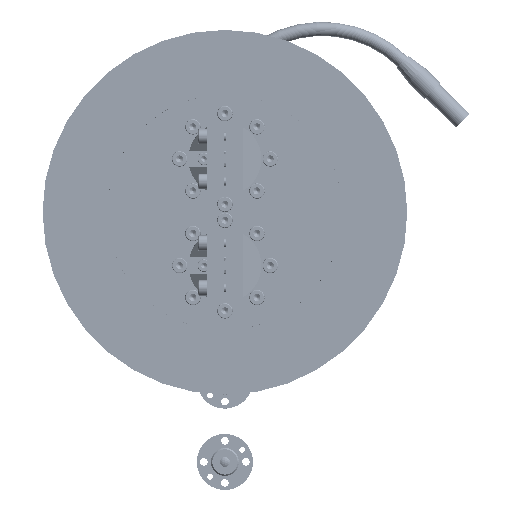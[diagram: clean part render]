
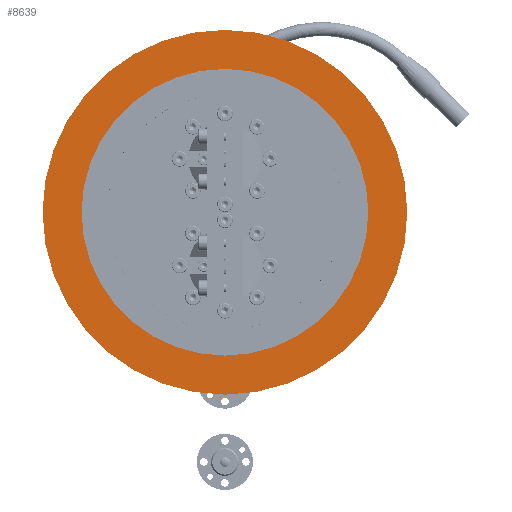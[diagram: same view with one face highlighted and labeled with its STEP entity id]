
A CAD part, left-side view. The second image highlights one B-rep face of the part: STEP entity #8639.
In plain terms, the highlighted planar face has unit normal (-1, 0, 0).
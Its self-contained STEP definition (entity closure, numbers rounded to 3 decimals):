
#8639 = ADVANCED_FACE ( 'NONE', ( #46988, #46996 ), #37887, .F. ) ;
#11202 = ORIENTED_EDGE ( 'NONE', *, *, #49868, .T. ) ;
#11312 = ORIENTED_EDGE ( 'NONE', *, *, #49977, .T. ) ;
#16965 = CARTESIAN_POINT ( 'NONE',  ( -20.15, 0., 51.1 ) ) ;
#17008 = CARTESIAN_POINT ( 'NONE',  ( -20.15, 0., -51.1 ) ) ;
#17021 = CARTESIAN_POINT ( 'NONE',  ( -20.15, 0., -65. ) ) ;
#17022 = CARTESIAN_POINT ( 'NONE',  ( -20.15, 0., 65. ) ) ;
#20893 = EDGE_LOOP ( 'NONE', ( #11202, #11312 ) ) ;
#20911 = EDGE_LOOP ( 'NONE', ( #48621, #48558 ) ) ;
#22168 = VERTEX_POINT ( 'NONE', #16965 ) ;
#22211 = VERTEX_POINT ( 'NONE', #17008 ) ;
#22224 = VERTEX_POINT ( 'NONE', #17021 ) ;
#22225 = VERTEX_POINT ( 'NONE', #17022 ) ;
#35832 = CIRCLE ( 'NONE', #40738, 65. ) ;
#35841 = CIRCLE ( 'NONE', #40760, 51.1 ) ;
#35974 = CIRCLE ( 'NONE', #40833, 51.1 ) ;
#35975 = CIRCLE ( 'NONE', #40834, 65. ) ;
#37886 = CARTESIAN_POINT ( 'NONE',  ( -20.15, 65., 0. ) ) ;
#37887 = PLANE ( 'NONE',  #38370 ) ;
#37889 = DIRECTION ( 'NONE',  ( 1., 0., 0. ) ) ;
#37890 = DIRECTION ( 'NONE',  ( 0., 0., -1. ) ) ;
#38370 = AXIS2_PLACEMENT_3D ( 'NONE', #37886, #37889, #37890 ) ;
#38765 = CARTESIAN_POINT ( 'NONE',  ( -20.15, 0., 0. ) ) ;
#38767 = DIRECTION ( 'NONE',  ( -1., 0., 0. ) ) ;
#38769 = DIRECTION ( 'NONE',  ( 0., 0., 1. ) ) ;
#38792 = CARTESIAN_POINT ( 'NONE',  ( -20.15, 0., 0. ) ) ;
#38797 = DIRECTION ( 'NONE',  ( 1., 0., 0. ) ) ;
#38799 = DIRECTION ( 'NONE',  ( 0., 0., -1. ) ) ;
#39555 = CARTESIAN_POINT ( 'NONE',  ( -20.15, 0., 0. ) ) ;
#39562 = CARTESIAN_POINT ( 'NONE',  ( -20.15, 0., 0. ) ) ;
#39571 = DIRECTION ( 'NONE',  ( 1., 0., 0. ) ) ;
#39572 = DIRECTION ( 'NONE',  ( 0., 0., -1. ) ) ;
#39577 = DIRECTION ( 'NONE',  ( -1., 0., 0. ) ) ;
#39579 = DIRECTION ( 'NONE',  ( 0., 0., 1. ) ) ;
#40738 = AXIS2_PLACEMENT_3D ( 'NONE', #38765, #38767, #38769 ) ;
#40760 = AXIS2_PLACEMENT_3D ( 'NONE', #38792, #38797, #38799 ) ;
#40833 = AXIS2_PLACEMENT_3D ( 'NONE', #39555, #39571, #39572 ) ;
#40834 = AXIS2_PLACEMENT_3D ( 'NONE', #39562, #39577, #39579 ) ;
#46988 = FACE_BOUND ( 'NONE', #20911, .T. ) ;
#46996 = FACE_OUTER_BOUND ( 'NONE', #20893, .T. ) ;
#48558 = ORIENTED_EDGE ( 'NONE', *, *, #49874, .T. ) ;
#48621 = ORIENTED_EDGE ( 'NONE', *, *, #49976, .T. ) ;
#49868 = EDGE_CURVE ( 'NONE', #22225, #22224, #35832, .T. ) ;
#49874 = EDGE_CURVE ( 'NONE', #22168, #22211, #35841, .T. ) ;
#49976 = EDGE_CURVE ( 'NONE', #22211, #22168, #35974, .T. ) ;
#49977 = EDGE_CURVE ( 'NONE', #22224, #22225, #35975, .T. ) ;
